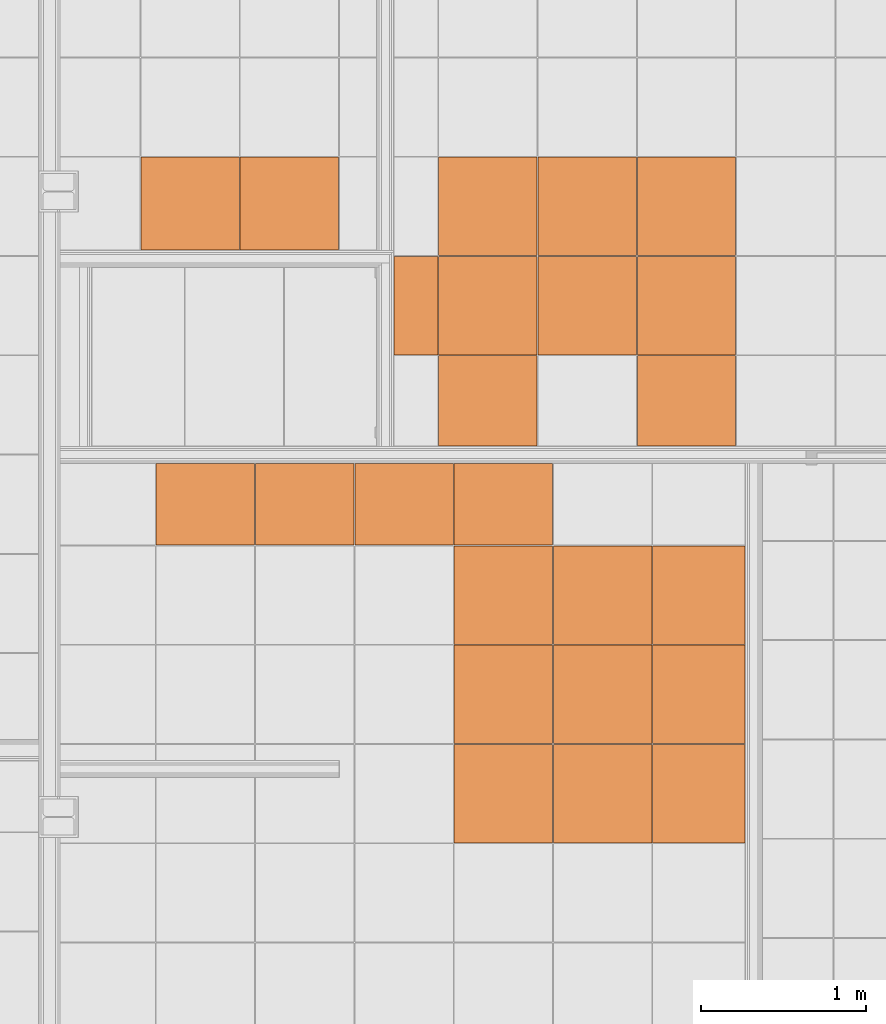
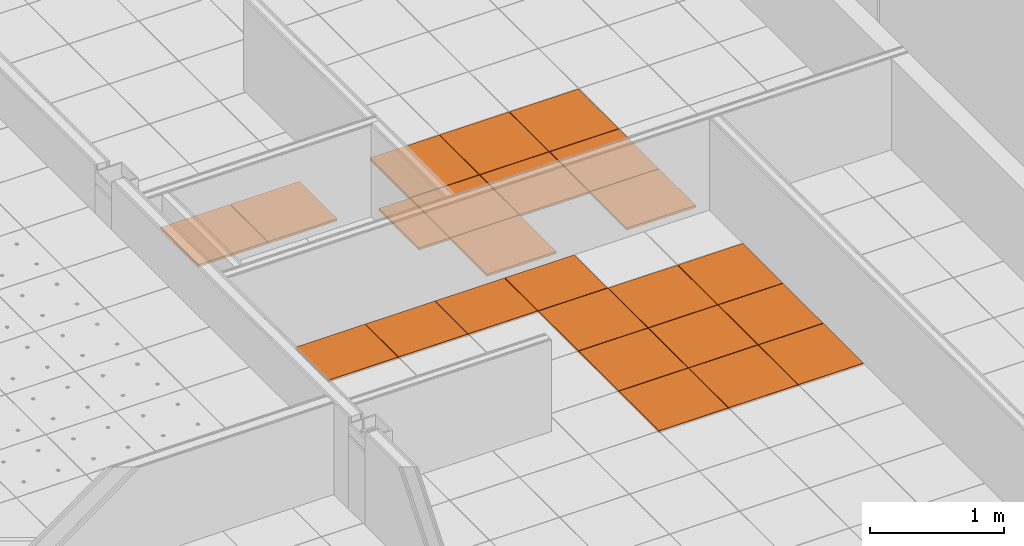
# One storey, part 291 of 338: 24 proxies, 2 elements without a shape of their own.
"""IFC2X3 building model written with IfcOpenShell, lengths in millimetres."""

from ifc_helpers import new_model, entity, si_unit, converted_unit, derived_unit, money_unit, direction, frame, origin_with_axes, place, context, subcontext, project, spatial, faceted_brep, source, transform, mapped, material, type_object, type_shapes, element, aggregate, save


model = new_model("IFC2X3")

# Units and contexts
model_context = context("Model", 3, precision=0.01, world=origin_with_axes(), true_north=direction((0.0, 1.0)))
plan_context = context("Plan", 3, precision=0.01, world=origin_with_axes(), true_north=direction((0.0, 1.0)))
body_context = subcontext(model_context, "Body", "Model", "MODEL_VIEW")
ifc_project = project(units=[si_unit("LENGTHUNIT", "METRE", prefix="MILLI"), si_unit("AREAUNIT", "SQUARE_METRE"), si_unit("VOLUMEUNIT", "CUBIC_METRE"), converted_unit("PLANEANGLEUNIT", "DEGREE", entity("IfcPlaneAngleMeasure", 0.0174532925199), si_unit("PLANEANGLEUNIT", "RADIAN"), dimensions=[0, 0, 0, 0, 0, 0, 0]), money_unit("EUR"), converted_unit("TIMEUNIT", "Year", entity("IfcTimeMeasure", 31556926.0), si_unit("TIMEUNIT", "SECOND"), dimensions=[0, 0, 1, 0, 0, 0, 0]), si_unit("MASSUNIT", "GRAM", prefix="KILO"), si_unit("THERMODYNAMICTEMPERATUREUNIT", "DEGREE_CELSIUS"), si_unit("LUMINOUSINTENSITYUNIT", "LUMEN"), si_unit("ENERGYUNIT", "JOULE", prefix="MEGA"), derived_unit("THERMALCONDUCTANCEUNIT", [(si_unit("POWERUNIT", "WATT"), 1), (si_unit("LENGTHUNIT", "METRE"), -1), (si_unit("THERMODYNAMICTEMPERATUREUNIT", "KELVIN"), -1)]), derived_unit("SPECIFICHEATCAPACITYUNIT", [(si_unit("ENERGYUNIT", "JOULE"), 1), (si_unit("MASSUNIT", "GRAM", prefix="KILO"), -1), (si_unit("THERMODYNAMICTEMPERATUREUNIT", "KELVIN"), -1)]), derived_unit("MASSDENSITYUNIT", [(si_unit("MASSUNIT", "GRAM", prefix="KILO"), 1), (si_unit("VOLUMEUNIT", "CUBIC_METRE"), -1)])], contexts=[model_context, plan_context])

# Site, building, storey
site_placement = place(None, origin_with_axes())
site = spatial("IfcSite", under=ifc_project, at=site_placement, Name="Fortuinstraat Woensdrecht", CompositionType="ELEMENT")
building_placement = place(site_placement, origin_with_axes())
building = spatial("IfcBuilding", under=site, at=building_placement, Name="IKC Fortuna", CompositionType="ELEMENT")
storey_placement = place(building_placement, origin_with_axes())
storey = spatial("IfcBuildingStorey", under=building, at=storey_placement, Name="00 begane grond", CompositionType="ELEMENT", Elevation=0.0)

# Covering, proxies
covering_type = type_object("IfcCoveringType", Name="Curtain Wall Type", PredefinedType="CEILING")
covering_1_placement = place(storey_placement, frame((34473.6590305, 30882.3889696, 2810.0), z_axis=(0.0, 0.0, 1.0), x_axis=(1.0, 0.0, 0.0)))
covering_1 = element("IfcCovering", 1, at=covering_1_placement, inside=storey, type_object=covering_type, Name="45_Plafondafwerking_P02 v", PredefinedType="CEILING")
ifc_material = material(Name="Gipsplaat")
building_element_proxy_type_1 = type_object("IfcBuildingElementProxyType", Name="Distinct Panel 600 x 600 x 20", PredefinedType="NOTDEFINED")
shared_shape_1 = source(origin_with_axes(), body_context, "Body", "Brep", [
    faceted_brep([(-2.49999999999, 2.5, -10.0), (-2.49999999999, 2.5, 10.0), (-597.5, 2.49999999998, 10.0), (-597.5, 2.49999999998, -10.0), (-2.50000000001, 597.5, -10.0), (-2.50000000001, 597.5, 10.0), (-597.5, 597.5, 10.0), (-597.5, 597.5, -10.0)], [[[0, 1, 2, 3]], [[4, 5, 1, 0]], [[1, 5, 6, 2]], [[3, 2, 6, 7]], [[0, 3, 7, 4]], [[7, 6, 5, 4]]]),
])
type_shapes(building_element_proxy_type_1, [shared_shape_1])
proxy_1_placement = place(covering_1_placement, frame((-1709.76800248, 0.0, 1.24344978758e-10), z_axis=(0.0, 0.0, 1.0), x_axis=(1.0, 0.0, 0.0)))
proxy_1 = element("IfcBuildingElementProxy", 2, at=proxy_1_placement, type_object=building_element_proxy_type_1, material=ifc_material, Name="__Panel-D", context=body_context, shape_type="MappedRepresentation", body=[
    mapped(shared_shape_1, transform((-300.0, 300.0, 0.0), x_axis=(-1.0, 0.0, 0.0), y_axis=(0.0, -1.0, 0.0), z_axis=(0.0, 0.0, 1.0))),
])
proxy_2_placement = place(covering_1_placement, frame((-1709.76800248, 600.0, 1.24344978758e-10), z_axis=(0.0, 0.0, 1.0), x_axis=(1.0, 0.0, 0.0)))
proxy_2 = element("IfcBuildingElementProxy", 3, at=proxy_2_placement, type_object=building_element_proxy_type_1, material=ifc_material, Name="__Panel-D", context=body_context, shape_type="MappedRepresentation", body=[
    mapped(shared_shape_1, transform((-300.0, 300.0, 0.0), x_axis=(-1.0, 0.0, 0.0), y_axis=(0.0, -1.0, 0.0), z_axis=(0.0, 0.0, 1.0))),
])
proxy_3_placement = place(covering_1_placement, frame((-2909.76800248, 600.0, 0.0), z_axis=(0.0, 0.0, 1.0), x_axis=(1.0, 0.0, 0.0)))
proxy_3 = element("IfcBuildingElementProxy", 4, at=proxy_3_placement, type_object=building_element_proxy_type_1, material=ifc_material, Name="__Panel-D", context=body_context, shape_type="MappedRepresentation", body=[
    mapped(shared_shape_1, transform((-300.0, 300.0, 0.0), x_axis=(-1.0, 0.0, 0.0), y_axis=(0.0, -1.0, 0.0), z_axis=(0.0, 0.0, 1.0))),
])
proxy_4_placement = place(covering_1_placement, frame((-2909.76800248, 1.27897692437e-10, 0.0), z_axis=(0.0, 0.0, 1.0), x_axis=(1.0, 0.0, 0.0)))
proxy_4 = element("IfcBuildingElementProxy", 5, at=proxy_4_placement, type_object=building_element_proxy_type_1, material=ifc_material, Name="__Panel-D", context=body_context, shape_type="MappedRepresentation", body=[
    mapped(shared_shape_1, transform((-300.0, 300.0, 0.0), x_axis=(-1.0, 0.0, 0.0), y_axis=(0.0, -1.0, 0.0), z_axis=(0.0, 0.0, 1.0))),
])
proxy_5_placement = place(covering_1_placement, frame((-2309.76800248, 600.0, 1.04360964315e-10), z_axis=(0.0, 0.0, 1.0), x_axis=(1.0, 0.0, 0.0)))
proxy_5 = element("IfcBuildingElementProxy", 6, at=proxy_5_placement, type_object=building_element_proxy_type_1, material=ifc_material, Name="__Panel-D", context=body_context, shape_type="MappedRepresentation", body=[
    mapped(shared_shape_1, transform((-300.0, 300.0, 0.0), x_axis=(-1.0, 0.0, 0.0), y_axis=(0.0, -1.0, 0.0), z_axis=(0.0, 0.0, 1.0))),
])
proxy_6_placement = place(covering_1_placement, frame((-2309.76800248, 1.03028696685e-10, 1.04360964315e-10), z_axis=(0.0, 0.0, 1.0), x_axis=(1.0, 0.0, 0.0)))
proxy_6 = element("IfcBuildingElementProxy", 7, at=proxy_6_placement, type_object=building_element_proxy_type_1, material=ifc_material, Name="__Panel-D", context=body_context, shape_type="MappedRepresentation", body=[
    mapped(shared_shape_1, transform((-300.0, 300.0, 0.0), x_axis=(-1.0, 0.0, 0.0), y_axis=(0.0, -1.0, 0.0), z_axis=(0.0, 0.0, 1.0))),
])

covering_2_placement = place(storey_placement, frame((29266.9722516, 29133.4974296, 2810.0), z_axis=(0.0, 0.0, 1.0), x_axis=(1.0, 0.0, 0.0)))
covering_2 = element("IfcCovering", 8, at=covering_2_placement, inside=storey, type_object=covering_type, Name="45_Plafondafwerking_P02 v", PredefinedType="CEILING")
proxy_7_placement = place(covering_2_placement, frame((2990.03728037, -1.20792265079e-10, 1.07913677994e-10), z_axis=(0.0, 0.0, 1.0), x_axis=(1.0, 0.0, 0.0)))
proxy_7 = element("IfcBuildingElementProxy", 9, at=proxy_7_placement, type_object=building_element_proxy_type_1, material=ifc_material, Name="__Panel-D", context=body_context, shape_type="MappedRepresentation", body=[
    mapped(shared_shape_1, transform((-300.0, 300.0, 0.0), x_axis=(-1.0, 0.0, 0.0), y_axis=(0.0, -1.0, 0.0), z_axis=(0.0, 0.0, 1.0))),
])
proxy_8_placement = place(covering_2_placement, frame((2390.03728037, 0.0, 0.0), z_axis=(0.0, 0.0, 1.0), x_axis=(1.0, 0.0, 0.0)))
proxy_8 = element("IfcBuildingElementProxy", 10, at=proxy_8_placement, type_object=building_element_proxy_type_1, material=ifc_material, Name="__Panel-D", context=body_context, shape_type="MappedRepresentation", body=[
    mapped(shared_shape_1, transform((-300.0, 300.0, 0.0), x_axis=(-1.0, 0.0, 0.0), y_axis=(0.0, -1.0, 0.0), z_axis=(0.0, 0.0, 1.0))),
])
proxy_9_placement = place(covering_2_placement, frame((2990.03728037, -600.0, 1.07913677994e-10), z_axis=(0.0, 0.0, 1.0), x_axis=(1.0, 0.0, 0.0)))
proxy_9 = element("IfcBuildingElementProxy", 11, at=proxy_9_placement, type_object=building_element_proxy_type_1, material=ifc_material, Name="__Panel-D", context=body_context, shape_type="MappedRepresentation", body=[
    mapped(shared_shape_1, transform((-300.0, 300.0, 0.0), x_axis=(-1.0, 0.0, 0.0), y_axis=(0.0, -1.0, 0.0), z_axis=(0.0, 0.0, 1.0))),
])
proxy_10_placement = place(covering_2_placement, frame((2390.03728037, -600.0, 0.0), z_axis=(0.0, 0.0, 1.0), x_axis=(1.0, 0.0, 0.0)))
proxy_10 = element("IfcBuildingElementProxy", 12, at=proxy_10_placement, type_object=building_element_proxy_type_1, material=ifc_material, Name="__Panel-D", context=body_context, shape_type="MappedRepresentation", body=[
    mapped(shared_shape_1, transform((-300.0, 300.0, 0.0), x_axis=(-1.0, 0.0, 0.0), y_axis=(0.0, -1.0, 0.0), z_axis=(0.0, 0.0, 1.0))),
])
proxy_11_placement = place(covering_2_placement, frame((2990.03728037, -1200.0, 1.07913677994e-10), z_axis=(0.0, 0.0, 1.0), x_axis=(1.0, 0.0, 0.0)))
proxy_11 = element("IfcBuildingElementProxy", 13, at=proxy_11_placement, type_object=building_element_proxy_type_1, material=ifc_material, Name="__Panel-D", context=body_context, shape_type="MappedRepresentation", body=[
    mapped(shared_shape_1, transform((-300.0, 300.0, 0.0), x_axis=(-1.0, 0.0, 0.0), y_axis=(0.0, -1.0, 0.0), z_axis=(0.0, 0.0, 1.0))),
])
proxy_12_placement = place(covering_2_placement, frame((2390.03728037, -1200.0, 0.0), z_axis=(0.0, 0.0, 1.0), x_axis=(1.0, 0.0, 0.0)))
proxy_12 = element("IfcBuildingElementProxy", 14, at=proxy_12_placement, type_object=building_element_proxy_type_1, material=ifc_material, Name="__Panel-D", context=body_context, shape_type="MappedRepresentation", body=[
    mapped(shared_shape_1, transform((-300.0, 300.0, 0.0), x_axis=(-1.0, 0.0, 0.0), y_axis=(0.0, -1.0, 0.0), z_axis=(0.0, 0.0, 1.0))),
])

# Proxy
building_element_proxy_type_2 = type_object("IfcBuildingElementProxyType", Name="Distinct Panel 600 x 550 x 20", PredefinedType="NOTDEFINED")
shared_shape_2 = source(origin_with_axes(), body_context, "Body", "Brep", [
    faceted_brep([(-2.49999999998, 2.50000057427, -10.0), (-2.49999999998, 2.50000057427, 10.0), (-597.5, 2.50000057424, 10.0), (-597.5, 2.50000057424, -10.0), (-2.5, 547.407669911, -10.0), (-2.5, 547.407669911, 10.0), (-597.5, 547.407669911, 10.0), (-597.5, 547.407669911, -10.0)], [[[0, 1, 2, 3]], [[4, 5, 1, 0]], [[1, 5, 6, 2]], [[3, 2, 6, 7]], [[0, 3, 7, 4]], [[7, 6, 5, 4]]]),
])
type_shapes(building_element_proxy_type_2, [shared_shape_2])
proxy_13_placement = place(covering_1_placement, frame((-1709.76800248, -574.953834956, 1.24344978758e-10), z_axis=(0.0, 0.0, 1.0), x_axis=(1.0, 0.0, 0.0)))
proxy_13 = element("IfcBuildingElementProxy", 15, at=proxy_13_placement, type_object=building_element_proxy_type_2, material=ifc_material, Name="__Panel-D", context=body_context, shape_type="MappedRepresentation", body=[
    mapped(shared_shape_2, transform((-300.0, 274.953834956, 0.0), x_axis=(-1.0, 0.0, 0.0), y_axis=(0.0, -1.0, 0.0), z_axis=(0.0, 0.0, 1.0))),
])

proxy_14_placement = place(covering_1_placement, frame((-2909.76800248, -574.953834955, 0.0), z_axis=(0.0, 0.0, 1.0), x_axis=(1.0, 0.0, 0.0)))
proxy_14 = element("IfcBuildingElementProxy", 16, at=proxy_14_placement, type_object=building_element_proxy_type_2, material=ifc_material, Name="__Panel-D", context=body_context, shape_type="MappedRepresentation", body=[
    mapped(shared_shape_2, transform((-300.0, 274.953834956, 0.0), x_axis=(-1.0, 0.0, 0.0), y_axis=(0.0, -1.0, 0.0), z_axis=(0.0, 0.0, 1.0))),
])

building_element_proxy_type_3 = type_object("IfcBuildingElementProxyType", Name="Distinct Panel 600 x 566 x 20", PredefinedType="NOTDEFINED")
shared_shape_3 = source(origin_with_axes(), body_context, "Body", "Brep", [
    faceted_brep([(-2.49999999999, 2.50000208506, -10.0), (-2.49999999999, 2.50000208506, 10.0), (-597.5, 2.50000208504, 10.0), (-597.5, 2.50000208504, -10.0), (-2.50000000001, 563.407689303, -10.0), (-2.50000000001, 563.407689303, 10.0), (-597.5, 563.407635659, 10.0), (-597.5, 563.407635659, -10.0)], [[[0, 1, 2, 3]], [[4, 5, 1, 0]], [[1, 5, 6, 2]], [[3, 2, 6, 7]], [[0, 3, 7, 4]], [[7, 6, 5, 4]]]),
])
type_shapes(building_element_proxy_type_3, [shared_shape_3])
proxy_15_placement = place(covering_1_placement, frame((-4709.76800248, 617.046168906, 0.0), z_axis=(0.0, 0.0, 1.0), x_axis=(1.0, 0.0, 0.0)))
proxy_15 = element("IfcBuildingElementProxy", 17, at=proxy_15_placement, type_object=building_element_proxy_type_3, material=ifc_material, Name="__Panel-D", context=body_context, shape_type="MappedRepresentation", body=[
    mapped(shared_shape_3, transform((-300.0, 282.953831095, 0.0), x_axis=(-1.0, 0.0, 0.0), y_axis=(0.0, -1.0, 0.0), z_axis=(0.0, 0.0, 1.0))),
])

proxy_16_placement = place(covering_1_placement, frame((-4109.76800248, 617.046182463, 0.0), z_axis=(0.0, 0.0, 1.0), x_axis=(1.0, 0.0, 0.0)))
proxy_16 = element("IfcBuildingElementProxy", 18, at=proxy_16_placement, type_object=building_element_proxy_type_3, material=ifc_material, Name="__Panel-D", context=body_context, shape_type="MappedRepresentation", body=[
    mapped(shared_shape_3, transform((-300.0, 282.953817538, 0.0), x_axis=(-1.0, 0.0, 0.0), y_axis=(0.0, -1.0, 0.0), z_axis=(0.0, 0.0, 1.0))),
])

building_element_proxy_type_4 = type_object("IfcBuildingElementProxyType", Name="Distinct Panel 270 x 600 x 20", PredefinedType="NOTDEFINED")
shared_shape_4 = source(origin_with_axes(), body_context, "Body", "Brep", [
    faceted_brep([(-332.974536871, 2.5, -10.0), (-332.974536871, 2.5, 10.0), (-597.5, 2.49999999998, 10.0), (-597.5, 2.49999999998, -10.0), (-332.974536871, 597.5, -10.0), (-332.974536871, 597.5, 10.0), (-597.5, 597.5, 10.0), (-597.5, 597.5, -10.0)], [[[0, 1, 2, 3]], [[4, 5, 1, 0]], [[1, 5, 6, 2]], [[3, 2, 6, 7]], [[0, 3, 7, 4]], [[7, 6, 5, 4]]]),
])
type_shapes(building_element_proxy_type_4, [shared_shape_4])
proxy_17_placement = place(covering_1_placement, frame((-3344.53073261, 1.42108547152e-10, 0.0), z_axis=(0.0, 0.0, 1.0), x_axis=(1.0, 0.0, 0.0)))
proxy_17 = element("IfcBuildingElementProxy", 19, at=proxy_17_placement, type_object=building_element_proxy_type_4, material=ifc_material, Name="__Panel-D", context=body_context, shape_type="MappedRepresentation", body=[
    mapped(shared_shape_4, transform((-465.237269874, 300.0, 0.0), x_axis=(-1.0, 0.0, 0.0), y_axis=(0.0, -1.0, 0.0), z_axis=(0.0, 0.0, 1.0))),
])

aggregate(covering_1, [proxy_13, proxy_14, proxy_1, proxy_2, proxy_15, proxy_3, proxy_4, proxy_5, proxy_6, proxy_17, proxy_16])

building_element_proxy_type_5 = type_object("IfcBuildingElementProxyType", Name="Distinct Panel 563 x 600 x 20", PredefinedType="NOTDEFINED")
shared_shape_5 = source(origin_with_axes(), body_context, "Body", "Brep", [
    faceted_brep([(-2.4999963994, 2.5, -10.0), (-2.4999963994, 2.5, 10.0), (-560.154491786, 2.49999999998, 10.0), (-560.154491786, 2.49999999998, -10.0), (-2.49999639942, 597.5, -10.0), (-2.49999639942, 597.5, 10.0), (-560.154491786, 597.5, 10.0), (-560.154491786, 597.5, -10.0)], [[[0, 1, 2, 3]], [[4, 5, 1, 0]], [[1, 5, 6, 2]], [[3, 2, 6, 7]], [[0, 3, 7, 4]], [[7, 6, 5, 4]]]),
])
type_shapes(building_element_proxy_type_5, [shared_shape_5])
proxy_18_placement = place(covering_2_placement, frame((3571.36452627, -1.42108547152e-10, 1.27009514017e-10), z_axis=(0.0, 0.0, 1.0), x_axis=(1.0, 0.0, 0.0)))
proxy_18 = element("IfcBuildingElementProxy", 20, at=proxy_18_placement, type_object=building_element_proxy_type_5, material=ifc_material, Name="__Panel-D", context=body_context, shape_type="MappedRepresentation", body=[
    mapped(shared_shape_5, transform((-281.327245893, 300.0, 0.0), x_axis=(-1.0, 0.0, 0.0), y_axis=(0.0, -1.0, 0.0), z_axis=(0.0, 0.0, 1.0))),
])

proxy_19_placement = place(covering_2_placement, frame((3571.36452627, -600.0, 1.27009514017e-10), z_axis=(0.0, 0.0, 1.0), x_axis=(1.0, 0.0, 0.0)))
proxy_19 = element("IfcBuildingElementProxy", 21, at=proxy_19_placement, type_object=building_element_proxy_type_5, material=ifc_material, Name="__Panel-D", context=body_context, shape_type="MappedRepresentation", body=[
    mapped(shared_shape_5, transform((-281.327245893, 300.0, 0.0), x_axis=(-1.0, 0.0, 0.0), y_axis=(0.0, -1.0, 0.0), z_axis=(0.0, 0.0, 1.0))),
])

proxy_20_placement = place(covering_2_placement, frame((3571.36452627, -1200.0, 1.27009514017e-10), z_axis=(0.0, 0.0, 1.0), x_axis=(1.0, 0.0, 0.0)))
proxy_20 = element("IfcBuildingElementProxy", 22, at=proxy_20_placement, type_object=building_element_proxy_type_5, material=ifc_material, Name="__Panel-D", context=body_context, shape_type="MappedRepresentation", body=[
    mapped(shared_shape_5, transform((-281.327245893, 300.0, 0.0), x_axis=(-1.0, 0.0, 0.0), y_axis=(0.0, -1.0, 0.0), z_axis=(0.0, 0.0, 1.0))),
])

building_element_proxy_type_6 = type_object("IfcBuildingElementProxyType", Name="Distinct Panel 600 x 499 x 20", PredefinedType="NOTDEFINED")
shared_shape_6 = source(origin_with_axes(), body_context, "Body", "Brep", [
    faceted_brep([(-2.49999999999, 103.516120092, -10.0), (-2.49999999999, 103.516120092, 10.0), (-597.5, 103.516120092, 10.0), (-597.5, 103.516120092, -10.0), (-2.50000000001, 597.5, -10.0), (-2.50000000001, 597.5, 10.0), (-597.5, 597.5, 10.0), (-597.5, 597.5, -10.0)], [[[0, 1, 2, 3]], [[4, 5, 1, 0]], [[1, 5, 6, 2]], [[3, 2, 6, 7]], [[0, 3, 7, 4]], [[7, 6, 5, 4]]]),
])
type_shapes(building_element_proxy_type_6, [shared_shape_6])
proxy_21_placement = place(covering_2_placement, frame((1790.03728037, 549.491940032, 0.0), z_axis=(0.0, 0.0, 1.0), x_axis=(1.0, 0.0, 0.0)))
proxy_21 = element("IfcBuildingElementProxy", 23, at=proxy_21_placement, type_object=building_element_proxy_type_6, material=ifc_material, Name="__Panel-D", context=body_context, shape_type="MappedRepresentation", body=[
    mapped(shared_shape_6, transform((-300.0, 350.508059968, 0.0), x_axis=(-1.0, 0.0, 0.0), y_axis=(0.0, -1.0, 0.0), z_axis=(0.0, 0.0, 1.0))),
])

proxy_22_placement = place(covering_2_placement, frame((1190.03728037, 549.491940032, 0.0), z_axis=(0.0, 0.0, 1.0), x_axis=(1.0, 0.0, 0.0)))
proxy_22 = element("IfcBuildingElementProxy", 24, at=proxy_22_placement, type_object=building_element_proxy_type_6, material=ifc_material, Name="__Panel-D", context=body_context, shape_type="MappedRepresentation", body=[
    mapped(shared_shape_6, transform((-300.0, 350.508059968, 0.0), x_axis=(-1.0, 0.0, 0.0), y_axis=(0.0, -1.0, 0.0), z_axis=(0.0, 0.0, 1.0))),
])

proxy_23_placement = place(covering_2_placement, frame((590.037280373, 549.491940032, 0.0), z_axis=(0.0, 0.0, 1.0), x_axis=(1.0, 0.0, 0.0)))
proxy_23 = element("IfcBuildingElementProxy", 25, at=proxy_23_placement, type_object=building_element_proxy_type_6, material=ifc_material, Name="__Panel-D", context=body_context, shape_type="MappedRepresentation", body=[
    mapped(shared_shape_6, transform((-300.0, 350.508059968, 0.0), x_axis=(-1.0, 0.0, 0.0), y_axis=(0.0, -1.0, 0.0), z_axis=(0.0, 0.0, 1.0))),
])

proxy_24_placement = place(covering_2_placement, frame((2390.03728037, 549.491940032, 0.0), z_axis=(0.0, 0.0, 1.0), x_axis=(1.0, 0.0, 0.0)))
proxy_24 = element("IfcBuildingElementProxy", 26, at=proxy_24_placement, type_object=building_element_proxy_type_6, material=ifc_material, Name="__Panel-D", context=body_context, shape_type="MappedRepresentation", body=[
    mapped(shared_shape_6, transform((-300.0, 350.508059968, 0.0), x_axis=(-1.0, 0.0, 0.0), y_axis=(0.0, -1.0, 0.0), z_axis=(0.0, 0.0, 1.0))),
])

aggregate(covering_2, [proxy_7, proxy_21, proxy_22, proxy_8, proxy_23, proxy_24, proxy_18, proxy_19, proxy_20, proxy_9, proxy_10, proxy_11, proxy_12])

save(model, "model.ifc")
